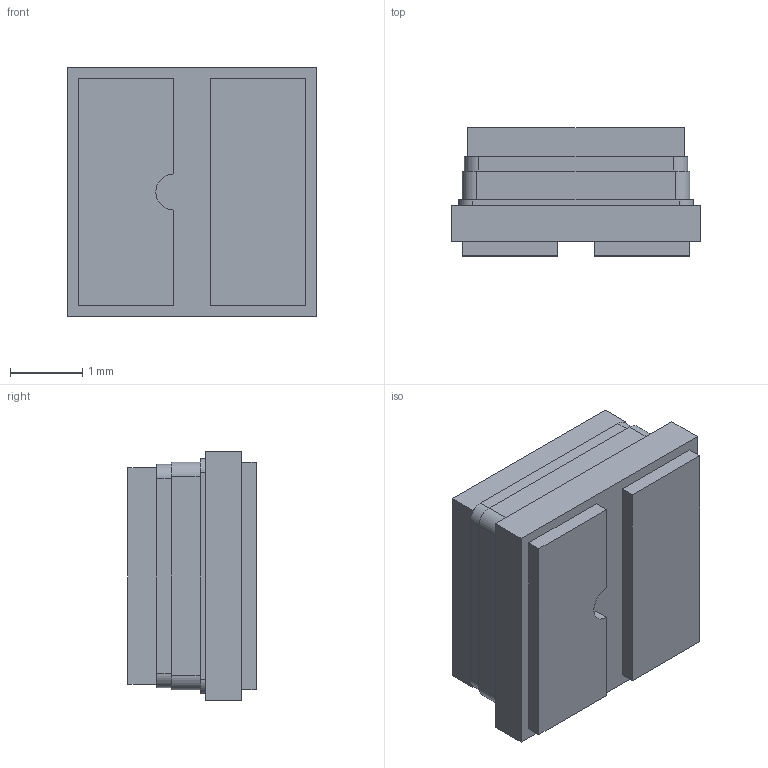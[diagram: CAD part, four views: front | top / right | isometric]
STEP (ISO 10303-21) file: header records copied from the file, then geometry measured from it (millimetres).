
FILE_DESCRIPTION(/* description */ (''),/* implementation_level */ '2;1');
FILE_NAME(/* name */ '\\wshn11\hn_users\mmangarudov\Desktop\VLMU35CT20-275-120.stp',/* time_stamp */ '2021-03-10T14:26:52+01:00',/* author */ ('mmangarudov'),/* organization */ (''),/* preprocessor_version */ 'ST-DEVELOPER v17.2',/* originating_system */ 'Autodesk Inventor 2019',/* authorisation */ '');
FILE_SCHEMA (('AUTOMOTIVE_DESIGN { 1 0 10303 214 3 1 1 }'));
Length unit declared in the file: millimetre
Products named in the file (13): VLMU35CT20-275-120; G35UVC280SL SUB; G35UVC280SL CHIP PAD; G35UVC280SL CHIP PAD_2; G35UVC280SL CHIP PAD_3; G35UVC280SL CHIP PAD_1; G35UVC280SL SOLDER PAD; G35UVC280SL SOLDER PAD_1; G35UVC280SL SOLDER PAD_2; G35UVC280SL CAVITY; G35UVC280SL DAM; G35UVC280SL GLASS; EPI_02UVC30S
Assembly tree (12 placements, depth 3):
  VLMU35CT20-275-120
    G35UVC280SL SUB
    G35UVC280SL CHIP PAD
      G35UVC280SL CHIP PAD_2
      G35UVC280SL CHIP PAD_3
      G35UVC280SL CHIP PAD_1
    G35UVC280SL SOLDER PAD
      G35UVC280SL SOLDER PAD_1
      G35UVC280SL SOLDER PAD_2
    G35UVC280SL CAVITY
    G35UVC280SL DAM
    G35UVC280SL GLASS
    EPI_02UVC30S
Bounding box: 3.45 x 1.77 x 3.45 mm (x, y, z)
Volume: 14.9 mm3; surface area: 128.1 mm2
Topology: 10 solids, 10 shells, 168 faces, 422 edges, 284 vertices
Faces by surface type: plane 117, cylinder 51
Full cylindrical faces by diameter (mm): 0.13 x4
Entity records: 5623 total; most frequent: DIRECTION 918, CARTESIAN_POINT 899, ORIENTED_EDGE 844, EDGE_CURVE 422, LINE 312, VECTOR 312, AXIS2_PLACEMENT_3D 303, VERTEX_POINT 284
